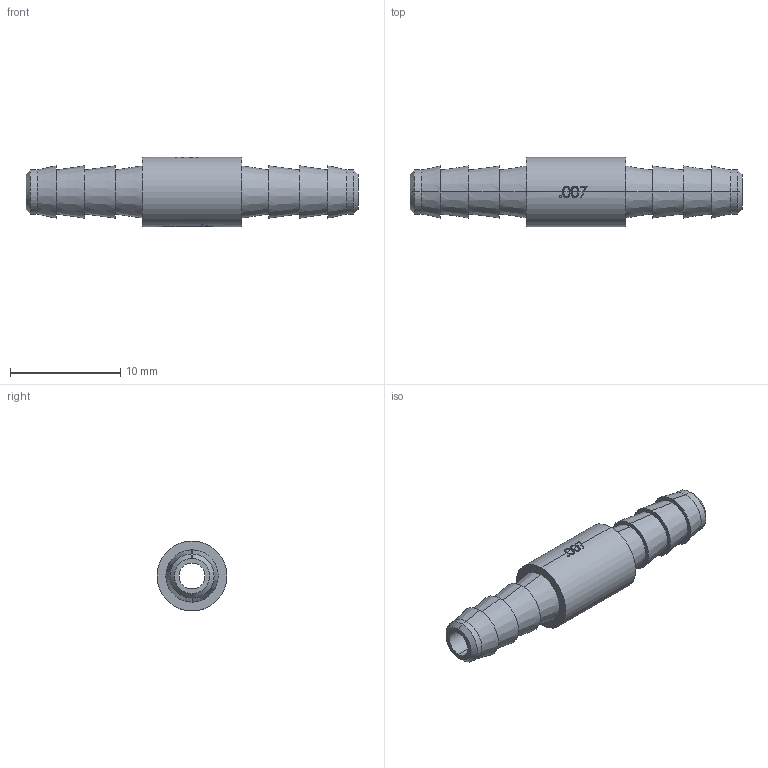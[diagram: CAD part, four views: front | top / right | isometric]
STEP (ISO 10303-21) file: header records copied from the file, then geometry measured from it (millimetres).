
FILE_DESCRIPTION(/* description */ ('SolidWorks IGES file using analytic representation for surfaces '),/* implementation_level */ '2;1');
FILE_NAME(/* name */ 'K:\Normteile INVENTOR\Air-Logic\Orifice restrictors\F-2815-071-B85.IGS.ipt.stp',/* time_stamp */ '2020-05-27T10:46:00+02:00',/* author */ ('cad'),/* organization */ (''),/* preprocessor_version */ 'ST-DEVELOPER v18',/* originating_system */ 'Autodesk Inventor 2020',/* authorisation */ '');
FILE_SCHEMA (('AUTOMOTIVE_DESIGN { 1 0 10303 214 3 1 1 }'));
Length unit declared in the file: millimetre
Products named in the file (1): F-2815-071-B85.IGS
Bounding box: 30.15 x 6.35 x 6.35 mm (x, y, z)
Surface area: 764.9 mm2 (no closed solid volume)
Topology: 0 solids, 85 shells, 85 faces, 405 edges, 405 vertices
Faces by surface type: bspline 27, cylinder 20, cone 20, plane 18
Entity records: 7554 total; most frequent: CARTESIAN_POINT 4412, DIRECTION 504, VERTEX_POINT 405, EDGE_CURVE 405, ORIENTED_EDGE 405, LINE 196, VECTOR 196, AXIS2_PLACEMENT_3D 154
